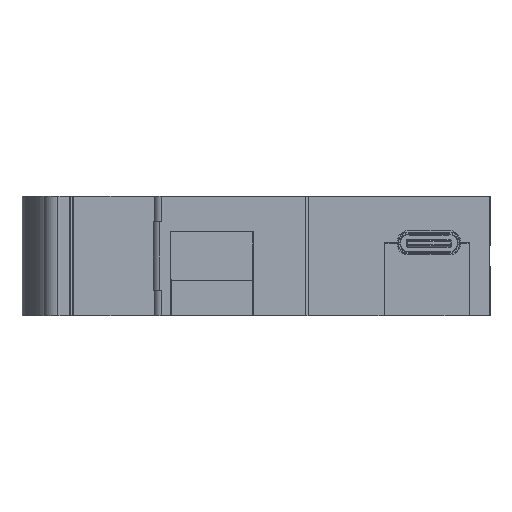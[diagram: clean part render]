
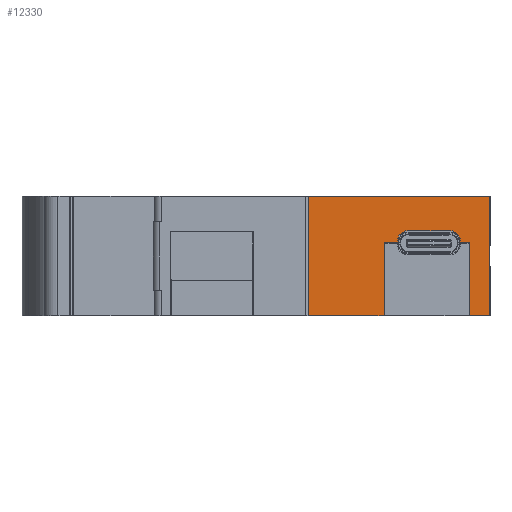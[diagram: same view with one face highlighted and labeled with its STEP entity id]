
A CAD part, left-side view. The second image highlights one B-rep face of the part: STEP entity #12330.
In plain terms, the highlighted planar face has unit normal (-1, 0, 0).
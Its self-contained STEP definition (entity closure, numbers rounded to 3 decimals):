
#1808 = CARTESIAN_POINT ( 'NONE',  ( -50.734, -6.827, 129.755 ) ) ;
#2977 = CARTESIAN_POINT ( 'NONE',  ( -50.734, -27.707, 128.305 ) ) ;
#4479 = CARTESIAN_POINT ( 'NONE',  ( -50.734, -29.157, 134.855 ) ) ;
#4730 = CARTESIAN_POINT ( 'NONE',  ( -50.734, -6.827, 134.855 ) ) ;
#11902 = DIRECTION ( 'NONE',  ( 0., -1., 0. ) ) ;
#12330 = ADVANCED_FACE ( 'NONE', ( #109163 ), #92954, .F. ) ;
#14450 = VERTEX_POINT ( 'NONE', #163160 ) ;
#16048 = CARTESIAN_POINT ( 'NONE',  ( -50.734, -29.157, 128.305 ) ) ;
#16250 = CARTESIAN_POINT ( 'NONE',  ( -50.734, -17.957, 128.055 ) ) ;
#17327 = CARTESIAN_POINT ( 'NONE',  ( -50.734, -21.407, 129.755 ) ) ;
#17981 = VECTOR ( 'NONE', #147337, 1000. ) ;
#19332 = DIRECTION ( 'NONE',  ( 0., 0., -1. ) ) ;
#21328 = EDGE_CURVE ( 'NONE', #14450, #123787, #138363, .T. ) ;
#21641 = EDGE_CURVE ( 'NONE', #75394, #112749, #56396, .T. ) ;
#22493 = DIRECTION ( 'NONE',  ( 0., -1., 0. ) ) ;
#27387 = EDGE_CURVE ( 'NONE', #175609, #75394, #46927, .T. ) ;
#27694 = CARTESIAN_POINT ( 'NONE',  ( -50.734, -17.957, 128.055 ) ) ;
#30038 = VERTEX_POINT ( 'NONE', #104198 ) ;
#30366 = DIRECTION ( 'NONE',  ( 0., 1., 0. ) ) ;
#31157 = AXIS2_PLACEMENT_3D ( 'NONE', #2977, #75755, #46152 ) ;
#33098 = LINE ( 'NONE', #4730, #91876 ) ;
#41671 = DIRECTION ( 'NONE',  ( 1., 0., 0. ) ) ;
#43376 = VERTEX_POINT ( 'NONE', #174706 ) ;
#44486 = EDGE_CURVE ( 'NONE', #155024, #54942, #158571, .T. ) ;
#45689 = ORIENTED_EDGE ( 'NONE', *, *, #72011, .T. ) ;
#46152 = DIRECTION ( 'NONE',  ( 0., 0., -1. ) ) ;
#46927 = LINE ( 'NONE', #49777, #169064 ) ;
#49777 = CARTESIAN_POINT ( 'NONE',  ( -50.734, -6.827, 134.855 ) ) ;
#52525 = CARTESIAN_POINT ( 'NONE',  ( -50.734, -6.827, 134.855 ) ) ;
#53545 = CIRCLE ( 'NONE', #73320, 1.45 ) ;
#54942 = VERTEX_POINT ( 'NONE', #129419 ) ;
#56396 = LINE ( 'NONE', #153726, #92619 ) ;
#56632 = VECTOR ( 'NONE', #119901, 1000. ) ;
#58468 = VERTEX_POINT ( 'NONE', #145379 ) ;
#66607 = CARTESIAN_POINT ( 'NONE',  ( -50.734, -6.827, 117.255 ) ) ;
#68165 = EDGE_CURVE ( 'NONE', #69046, #123787, #53545, .T. ) ;
#69046 = VERTEX_POINT ( 'NONE', #94865 ) ;
#72011 = EDGE_CURVE ( 'NONE', #58468, #69046, #99594, .T. ) ;
#73320 = AXIS2_PLACEMENT_3D ( 'NONE', #83969, #41671, #187888 ) ;
#75394 = VERTEX_POINT ( 'NONE', #90176 ) ;
#75755 = DIRECTION ( 'NONE',  ( 1., 0., 0. ) ) ;
#76294 = VECTOR ( 'NONE', #95675, 1000. ) ;
#79383 = CARTESIAN_POINT ( 'NONE',  ( -50.734, -19.957, 134.855 ) ) ;
#79544 = DIRECTION ( 'NONE',  ( 0., 0., -1. ) ) ;
#83969 = CARTESIAN_POINT ( 'NONE',  ( -50.734, -21.407, 128.305 ) ) ;
#87888 = EDGE_CURVE ( 'NONE', #175609, #101007, #33098, .T. ) ;
#90176 = CARTESIAN_POINT ( 'NONE',  ( -50.734, -33.527, 134.855 ) ) ;
#90853 = CARTESIAN_POINT ( 'NONE',  ( -50.734, -30.557, 117.255 ) ) ;
#91266 = EDGE_CURVE ( 'NONE', #101007, #30038, #137302, .T. ) ;
#91301 = ORIENTED_EDGE ( 'NONE', *, *, #21328, .F. ) ;
#91876 = VECTOR ( 'NONE', #19332, 1000. ) ;
#92619 = VECTOR ( 'NONE', #79544, 1000. ) ;
#92784 = VECTOR ( 'NONE', #30366, 1000. ) ;
#92954 = PLANE ( 'NONE',  #98056 ) ;
#94841 = DIRECTION ( 'NONE',  ( 1., 0., 0. ) ) ;
#94865 = CARTESIAN_POINT ( 'NONE',  ( -50.734, -19.957, 128.305 ) ) ;
#95062 = CIRCLE ( 'NONE', #31157, 1.45 ) ;
#95675 = DIRECTION ( 'NONE',  ( 0., 1., 0. ) ) ;
#98056 = AXIS2_PLACEMENT_3D ( 'NONE', #52525, #94841, #125379 ) ;
#98643 = EDGE_CURVE ( 'NONE', #148377, #112749, #144552, .T. ) ;
#99594 = LINE ( 'NONE', #79383, #165336 ) ;
#101007 = VERTEX_POINT ( 'NONE', #66607 ) ;
#101124 = CARTESIAN_POINT ( 'NONE',  ( -50.734, -6.827, 134.855 ) ) ;
#101746 = DIRECTION ( 'NONE',  ( 0., 0., -1. ) ) ;
#102049 = EDGE_CURVE ( 'NONE', #109354, #54942, #169134, .T. ) ;
#103502 = ORIENTED_EDGE ( 'NONE', *, *, #102049, .F. ) ;
#103603 = CARTESIAN_POINT ( 'NONE',  ( -50.734, -30.557, 128.055 ) ) ;
#104120 = LINE ( 'NONE', #16250, #183292 ) ;
#104198 = CARTESIAN_POINT ( 'NONE',  ( -50.734, -17.957, 117.255 ) ) ;
#104490 = CARTESIAN_POINT ( 'NONE',  ( -50.734, -30.557, 128.055 ) ) ;
#105203 = LINE ( 'NONE', #27694, #168452 ) ;
#108250 = EDGE_CURVE ( 'NONE', #43376, #30038, #104120, .T. ) ;
#108363 = EDGE_CURVE ( 'NONE', #148377, #109354, #144831, .T. ) ;
#109163 = FACE_OUTER_BOUND ( 'NONE', #109729, .T. ) ;
#109354 = VERTEX_POINT ( 'NONE', #104490 ) ;
#109729 = EDGE_LOOP ( 'NONE', ( #158533, #183092, #175204, #174512, #45689, #184033, #91301, #109920, #111339, #103502, #129868, #125597, #178522, #139283 ) ) ;
#109920 = ORIENTED_EDGE ( 'NONE', *, *, #138542, .T. ) ;
#111339 = ORIENTED_EDGE ( 'NONE', *, *, #44486, .T. ) ;
#112749 = VERTEX_POINT ( 'NONE', #139308 ) ;
#119500 = DIRECTION ( 'NONE',  ( 0., 0., 1. ) ) ;
#119901 = DIRECTION ( 'NONE',  ( 0., 0., -1. ) ) ;
#123759 = VECTOR ( 'NONE', #11902, 1000. ) ;
#123787 = VERTEX_POINT ( 'NONE', #17327 ) ;
#125379 = DIRECTION ( 'NONE',  ( 0., 0., -1. ) ) ;
#125597 = ORIENTED_EDGE ( 'NONE', *, *, #98643, .T. ) ;
#128003 = CARTESIAN_POINT ( 'NONE',  ( -50.734, -6.827, 117.255 ) ) ;
#129419 = CARTESIAN_POINT ( 'NONE',  ( -50.734, -29.157, 128.055 ) ) ;
#129868 = ORIENTED_EDGE ( 'NONE', *, *, #108363, .F. ) ;
#137302 = LINE ( 'NONE', #173288, #123759 ) ;
#138363 = LINE ( 'NONE', #1808, #92784 ) ;
#138542 = EDGE_CURVE ( 'NONE', #14450, #155024, #95062, .T. ) ;
#139283 = ORIENTED_EDGE ( 'NONE', *, *, #27387, .F. ) ;
#139308 = CARTESIAN_POINT ( 'NONE',  ( -50.734, -33.527, 117.255 ) ) ;
#141348 = CARTESIAN_POINT ( 'NONE',  ( -50.734, -17.957, 128.055 ) ) ;
#144233 = EDGE_CURVE ( 'NONE', #58468, #43376, #105203, .T. ) ;
#144552 = LINE ( 'NONE', #128003, #155959 ) ;
#144831 = LINE ( 'NONE', #103603, #17981 ) ;
#145379 = CARTESIAN_POINT ( 'NONE',  ( -50.734, -19.957, 128.055 ) ) ;
#147337 = DIRECTION ( 'NONE',  ( 0., 0., 1. ) ) ;
#148377 = VERTEX_POINT ( 'NONE', #90853 ) ;
#153726 = CARTESIAN_POINT ( 'NONE',  ( -50.734, -33.527, 134.855 ) ) ;
#155024 = VERTEX_POINT ( 'NONE', #16048 ) ;
#155959 = VECTOR ( 'NONE', #157042, 1000. ) ;
#157042 = DIRECTION ( 'NONE',  ( 0., -1., 0. ) ) ;
#158533 = ORIENTED_EDGE ( 'NONE', *, *, #87888, .T. ) ;
#158571 = LINE ( 'NONE', #4479, #56632 ) ;
#163160 = CARTESIAN_POINT ( 'NONE',  ( -50.734, -27.707, 129.755 ) ) ;
#165336 = VECTOR ( 'NONE', #119500, 1000. ) ;
#168452 = VECTOR ( 'NONE', #187272, 1000. ) ;
#169064 = VECTOR ( 'NONE', #22493, 1000. ) ;
#169134 = LINE ( 'NONE', #141348, #76294 ) ;
#173288 = CARTESIAN_POINT ( 'NONE',  ( -50.734, -6.827, 117.255 ) ) ;
#174512 = ORIENTED_EDGE ( 'NONE', *, *, #144233, .F. ) ;
#174706 = CARTESIAN_POINT ( 'NONE',  ( -50.734, -17.957, 128.055 ) ) ;
#175204 = ORIENTED_EDGE ( 'NONE', *, *, #108250, .F. ) ;
#175609 = VERTEX_POINT ( 'NONE', #101124 ) ;
#178522 = ORIENTED_EDGE ( 'NONE', *, *, #21641, .F. ) ;
#183092 = ORIENTED_EDGE ( 'NONE', *, *, #91266, .T. ) ;
#183292 = VECTOR ( 'NONE', #101746, 1000. ) ;
#184033 = ORIENTED_EDGE ( 'NONE', *, *, #68165, .T. ) ;
#187272 = DIRECTION ( 'NONE',  ( 0., 1., 0. ) ) ;
#187888 = DIRECTION ( 'NONE',  ( 0., 0., -1. ) ) ;
